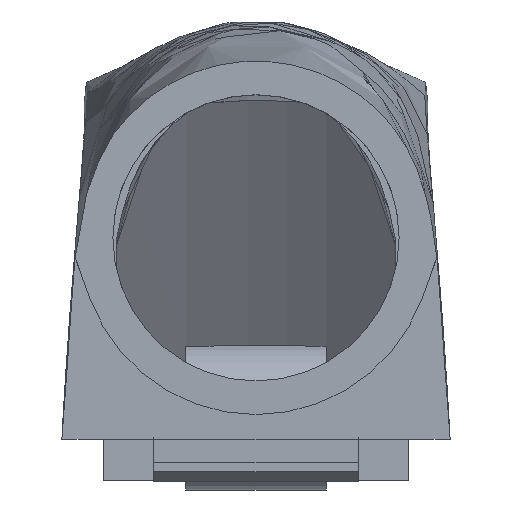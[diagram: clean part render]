
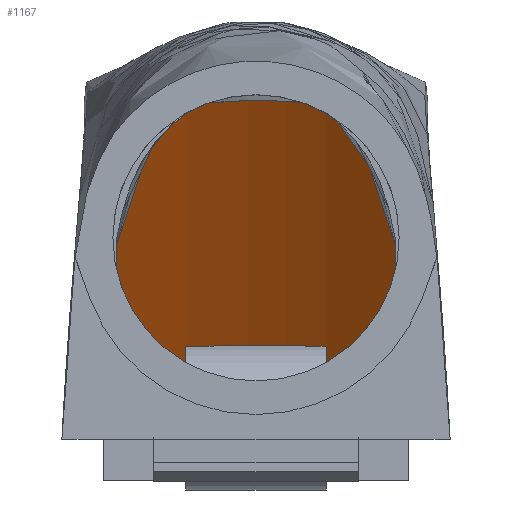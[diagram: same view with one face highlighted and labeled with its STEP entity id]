
A CAD part, top view. The second image highlights one B-rep face of the part: STEP entity #1167.
In plain terms, the highlighted face is a extrusion surface.
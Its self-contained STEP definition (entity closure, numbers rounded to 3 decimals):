
#124=CARTESIAN_POINT('',(-5.22,3.69,-75.617));
#130=CARTESIAN_POINT('',(-2.4,3.735,-76.192));
#131=CARTESIAN_POINT('',(-2.725,3.743,-76.143));
#132=CARTESIAN_POINT('',(-3.367,3.754,-76.031));
#133=CARTESIAN_POINT('',(-4.305,3.745,-75.834));
#134=CARTESIAN_POINT('',(-4.917,3.713,-75.69));
#135=CARTESIAN_POINT('',(-5.22,3.69,-75.617));
#137=CARTESIAN_POINT('',(-5.22,3.69,-75.617));
#138=CARTESIAN_POINT('',(-5.215,4.744,-74.863));
#139=CARTESIAN_POINT('',(-5.206,6.852,-73.356));
#140=CARTESIAN_POINT('',(-5.192,10.014,-71.096));
#141=CARTESIAN_POINT('',(-5.182,12.122,-69.589));
#142=CARTESIAN_POINT('',(-5.178,13.176,-68.835));
#144=CARTESIAN_POINT('',(-5.178,13.176,-68.835));
#145=CARTESIAN_POINT('',(-4.873,13.177,-68.924));
#146=CARTESIAN_POINT('',(-4.263,13.18,-69.086));
#147=CARTESIAN_POINT('',(-3.339,13.183,-69.282));
#148=CARTESIAN_POINT('',(-2.72,13.185,-69.381));
#149=CARTESIAN_POINT('',(-2.41,13.185,-69.422));
#151=CARTESIAN_POINT('',(-2.41,13.185,-69.422));
#152=CARTESIAN_POINT('',(-2.396,13.187,-69.423));
#153=CARTESIAN_POINT('',(-2.187,13.211,-69.433));
#154=CARTESIAN_POINT('',(-1.779,13.251,-69.452));
#155=CARTESIAN_POINT('',(-1.187,13.293,-69.471));
#156=CARTESIAN_POINT('',(-0.594,13.319,
-69.482));
#157=CARTESIAN_POINT('',(0.,13.327,
-69.486));
#158=CARTESIAN_POINT('',(0.594,13.319,-69.482));
#159=CARTESIAN_POINT('',(1.187,13.293,-69.471));
#160=CARTESIAN_POINT('',(1.779,13.251,-69.452));
#161=CARTESIAN_POINT('',(2.188,13.211,-69.434));
#162=CARTESIAN_POINT('',(2.397,13.187,-69.423));
#163=CARTESIAN_POINT('',(2.411,13.185,-69.422));
#165=CARTESIAN_POINT('',(2.411,13.185,-69.422));
#166=CARTESIAN_POINT('',(2.721,13.185,-69.381));
#167=CARTESIAN_POINT('',(3.339,13.183,-69.282));
#168=CARTESIAN_POINT('',(4.263,13.18,-69.086));
#169=CARTESIAN_POINT('',(4.873,13.177,-68.924));
#170=CARTESIAN_POINT('',(5.178,13.176,-68.835));
#172=CARTESIAN_POINT('',(5.178,13.176,-68.835));
#173=CARTESIAN_POINT('',(5.182,12.122,-69.589));
#174=CARTESIAN_POINT('',(5.192,10.014,-71.096));
#175=CARTESIAN_POINT('',(5.206,6.852,-73.356));
#176=CARTESIAN_POINT('',(5.215,4.744,-74.863));
#177=CARTESIAN_POINT('',(5.22,3.69,-75.617));
#179=CARTESIAN_POINT('',(5.22,3.69,-75.617));
#180=CARTESIAN_POINT('',(4.917,3.713,-75.69));
#181=CARTESIAN_POINT('',(4.304,3.745,-75.834));
#182=CARTESIAN_POINT('',(3.366,3.754,-76.031));
#183=CARTESIAN_POINT('',(2.725,3.743,-76.143));
#184=CARTESIAN_POINT('',(2.4,3.735,-76.192));
#186=CARTESIAN_POINT('',(-2.4,4.913,-75.348));
#187=CARTESIAN_POINT('',(-1.868,4.93,-75.408));
#188=CARTESIAN_POINT('',(-0.803,4.948,
-75.49));
#189=CARTESIAN_POINT('',(0.803,4.948,-75.49));
#190=CARTESIAN_POINT('',(1.868,4.93,-75.408));
#191=CARTESIAN_POINT('',(2.4,4.913,-75.348));
#197=DIRECTION('',(0.,0.813,0.582));
#198=VECTOR('',#197,1.449);
#199=CARTESIAN_POINT('',(-2.4,3.735,-76.192));
#200=LINE('',#199,#198);
#215=DIRECTION('',(0.,-0.813,-0.582));
#216=VECTOR('',#215,1.449);
#217=CARTESIAN_POINT('',(2.4,4.913,-75.348));
#218=LINE('',#217,#216);
#854=CARTESIAN_POINT('',(-2.4,4.913,-75.348));
#856=VERTEX_POINT('',#854);
#858=VERTEX_POINT('',#191);
#869=VERTEX_POINT('',#179);
#870=VERTEX_POINT('',#184);
#875=VERTEX_POINT('',#124);
#876=VERTEX_POINT('',#130);
#881=VERTEX_POINT('',#142);
#882=VERTEX_POINT('',#149);
#883=VERTEX_POINT('',#163);
#884=VERTEX_POINT('',#170);
#1138=CARTESIAN_POINT('',(-0.001,-12.42,
-61.882));
#1139=DIRECTION('',(0.,0.825,0.565));
#1140=DIRECTION('',(-1.,0.,0.));
#1141=AXIS2_PLACEMENT_3D('',#1138,#1139,#1140);
#1144=DIRECTION('',(0.,0.813,0.582));
#1145=VECTOR('',#1144,1.);
#1146=SURFACE_OF_LINEAR_EXTRUSION('',#1143,#1145);
#1148=ORIENTED_EDGE('',*,*,#1147,.F.);
#1150=ORIENTED_EDGE('',*,*,#1149,.F.);
#1151=ORIENTED_EDGE('',*,*,#1127,.T.);
#1153=ORIENTED_EDGE('',*,*,#1152,.T.);
#1155=ORIENTED_EDGE('',*,*,#1154,.T.);
#1157=ORIENTED_EDGE('',*,*,#1156,.T.);
#1159=ORIENTED_EDGE('',*,*,#1158,.T.);
#1161=ORIENTED_EDGE('',*,*,#1160,.T.);
#1162=ORIENTED_EDGE('',*,*,#1112,.T.);
#1164=ORIENTED_EDGE('',*,*,#1163,.F.);
#1165=EDGE_LOOP('',(#1148,#1150,#1151,#1153,#1155,#1157,#1159,#1161,#1162,
#1164));
#1166=FACE_OUTER_BOUND('',#1165,.F.);
#1167=ADVANCED_FACE('',(#1166),#1146,.F.);
#136=B_SPLINE_CURVE_WITH_KNOTS('',3,(#130,#131,#132,#133,#134,#135),
.UNSPECIFIED.,.F.,.F.,(4,1,1,4),(0.,0.333,0.667,1.),
.UNSPECIFIED.);
#143=B_SPLINE_CURVE_WITH_KNOTS('',3,(#137,#138,#139,#140,#141,#142),
.UNSPECIFIED.,.F.,.F.,(4,1,1,4),(0.,0.333,0.667,1.),
.UNSPECIFIED.);
#150=B_SPLINE_CURVE_WITH_KNOTS('',3,(#144,#145,#146,#147,#148,#149),
.UNSPECIFIED.,.F.,.F.,(4,1,1,4),(0.,0.333,0.667,1.),
.UNSPECIFIED.);
#164=B_SPLINE_CURVE_WITH_KNOTS('',3,(#151,#152,#153,#154,#155,#156,#157,#158,
#159,#160,#161,#162,#163),.UNSPECIFIED.,.F.,.F.,(4,1,1,1,1,1,1,1,1,1,4),(0.,
0.009,0.131,0.254,0.377,
0.5,0.623,0.746,0.868,
0.991,1.),.UNSPECIFIED.);
#171=B_SPLINE_CURVE_WITH_KNOTS('',3,(#165,#166,#167,#168,#169,#170),
.UNSPECIFIED.,.F.,.F.,(4,1,1,4),(0.,0.333,0.667,1.),
.UNSPECIFIED.);
#178=B_SPLINE_CURVE_WITH_KNOTS('',3,(#172,#173,#174,#175,#176,#177),
.UNSPECIFIED.,.F.,.F.,(4,1,1,4),(0.,0.333,0.667,1.),
.UNSPECIFIED.);
#185=B_SPLINE_CURVE_WITH_KNOTS('',3,(#179,#180,#181,#182,#183,#184),
.UNSPECIFIED.,.F.,.F.,(4,1,1,4),(0.,0.333,0.667,1.),
.UNSPECIFIED.);
#192=B_SPLINE_CURVE_WITH_KNOTS('',3,(#186,#187,#188,#189,#190,#191),
.UNSPECIFIED.,.F.,.F.,(4,1,1,4),(0.,0.333,0.667,1.),
.UNSPECIFIED.);
#1112=EDGE_CURVE('',#869,#870,#185,.T.);
#1127=EDGE_CURVE('',#876,#875,#136,.T.);
#1142=ELLIPSE('',#1141,21.645,21.176);
#1143=TRIMMED_CURVE('',#1142,(PARAMETER_VALUE(256.021)),(PARAMETER_VALUE(283.93)),.T.,.UNSPECIFIED.);
#1147=EDGE_CURVE('',#856,#858,#192,.T.);
#1149=EDGE_CURVE('',#876,#856,#200,.T.);
#1152=EDGE_CURVE('',#875,#881,#143,.T.);
#1154=EDGE_CURVE('',#881,#882,#150,.T.);
#1156=EDGE_CURVE('',#882,#883,#164,.T.);
#1158=EDGE_CURVE('',#883,#884,#171,.T.);
#1160=EDGE_CURVE('',#884,#869,#178,.T.);
#1163=EDGE_CURVE('',#858,#870,#218,.T.);
